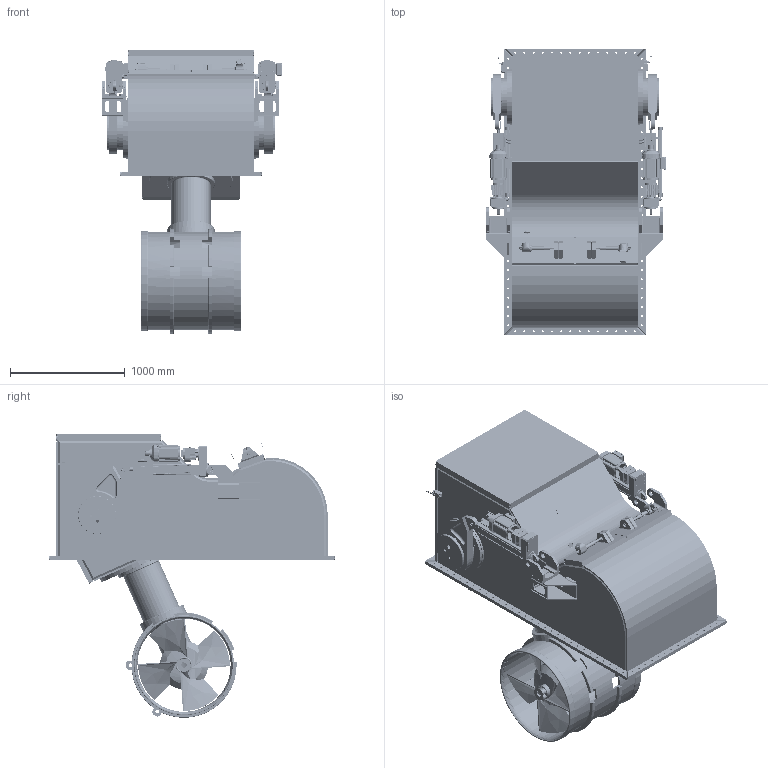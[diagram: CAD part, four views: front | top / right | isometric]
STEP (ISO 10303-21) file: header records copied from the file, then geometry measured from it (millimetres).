
FILE_DESCRIPTION(/* description */ (''),/* implementation_level */ '2;1');
FILE_NAME(/* name */ 'Q:\THRUSTERS\Q PROPOSALS\Q00541 ROYAL HUISMAN 410 85M SLOOP\CUSTOMER APPROVAL DRAWING\E-0800-S-338-02\E-0800-S-Rev1 DEPLOYED.stp',/* time_stamp */ '2022-04-05T15:17:24+01:00',/* author */ ('barney.webborn'),/* organization */ (''),/* preprocessor_version */ 'ST-DEVELOPER v18.1',/* originating_system */ 'Autodesk Inventor 2022',/* authorisation */ '');
FILE_SCHEMA (('AUTOMOTIVE_DESIGN { 1 0 10303 214 3 1 1 }'));
Products named in the file (1): E-0800-S-338-02_Simplify_2
Bounding box: 1562.5 x 2490 x 2465.25 mm (x, y, z)
Volume: 34117075.6 mm3; surface area: 44128520.9 mm2
Topology: 12 solids, 13 shells, 16151 faces, 42283 edges, 26695 vertices
Faces by surface type: plane 7666, bspline 3791, cylinder 3168, cone 922, torus 303, sphere 301
Full cylindrical faces by diameter (mm): 1 x8, 2.5 x4, 2.9 x4, 3 x12, 3.15 x3, 6 x16, 7 x2, 7.2 x4, 8 x18, 8.7 x24, 8.9 x8, 9.5 x1, 9.95 x6, 10 x18, 10.2 x2, 10.3 x2, 10.5 x45, 10.56 x1, 11 x6, 11.3 x1, 11.6 x2, 12 x18, 12.3 x3, 12.5 x1, 13 x28, 14 x5, 14.5 x6, 14.662 x2, 15.4 x2, 16 x54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
Entity records: 776145 total; most frequent: CARTESIAN_POINT 385601, ORIENTED_EDGE 84022, DIRECTION 68637, EDGE_CURVE 42011, VERTEX_POINT 26685, AXIS2_PLACEMENT_3D 23326, LINE 21985, VECTOR 21985
